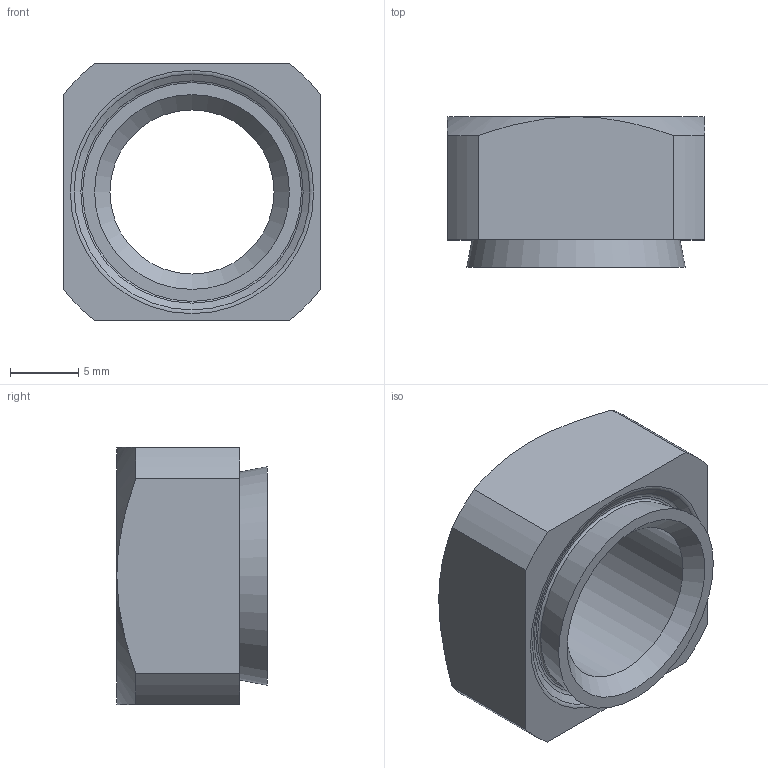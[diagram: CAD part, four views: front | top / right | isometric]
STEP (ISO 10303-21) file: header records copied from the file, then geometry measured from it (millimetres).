
FILE_DESCRIPTION(/* description */ (''),/* implementation_level */ '2;1');
FILE_NAME(/* name */ 'D:\Sukhmani\Fastit\HN Nut\HN 12-2.5.stp',/* time_stamp */ '2024-03-14T12:22:15+06:00',/* author */ ('edc.sukhmani'),/* organization */ (''),/* preprocessor_version */ 'ST-DEVELOPER v18.1',/* originating_system */ 'Autodesk Inventor 2022',/* authorisation */ '');
FILE_SCHEMA (('AUTOMOTIVE_DESIGN { 1 0 10303 214 3 1 1 }'));
Length unit declared in the file: millimetre
Products named in the file (1): HN 12-2.5
Bounding box: 18.8 x 11 x 18.8 mm (x, y, z)
Volume: 2114 mm3; surface area: 1577.5 mm2
Topology: 1 solids, 1 shells, 25 faces, 58 edges, 37 vertices
Faces by surface type: cone 8, plane 8, cylinder 6, torus 3
Full cylindrical faces by diameter (mm): 12 x1, 14.25 x1
Entity records: 763 total; most frequent: CARTESIAN_POINT 137, DIRECTION 134, ORIENTED_EDGE 116, EDGE_CURVE 58, AXIS2_PLACEMENT_3D 58, VERTEX_POINT 37, CIRCLE 32, EDGE_LOOP 29
